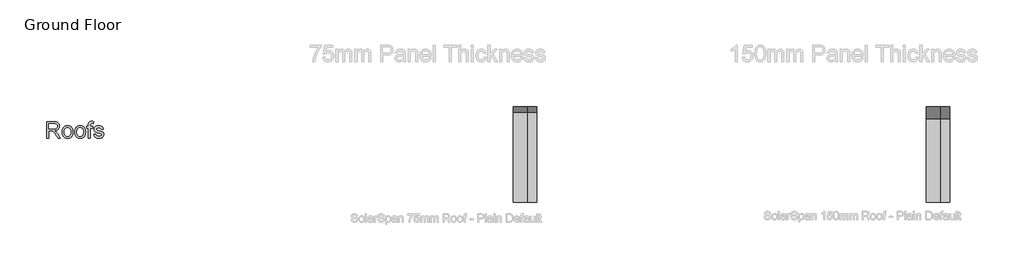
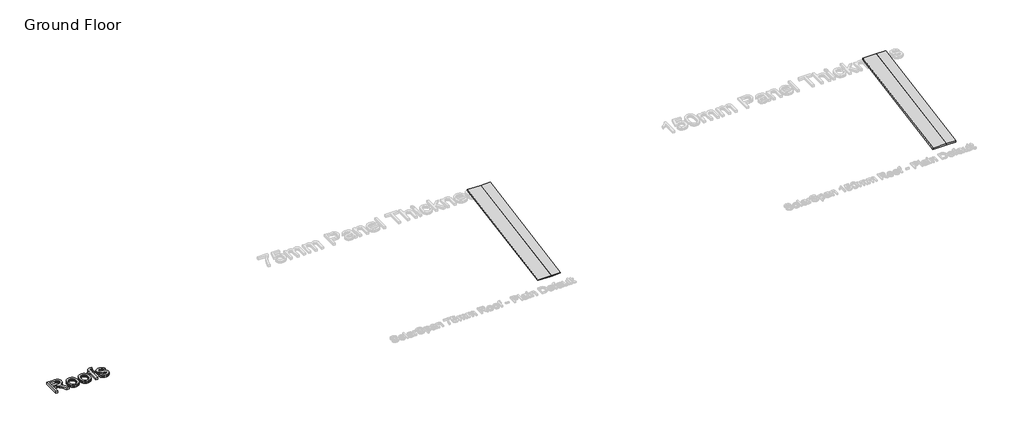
# One storey, part 1 of 5: 4 plates, 1 proxy.
"""IFC4 building model written with IfcOpenShell, lengths in millimetres."""

from ifc_helpers import new_model, si_unit, origin, origin_with_axes, place, context, project, spatial, polyline, outline, extrude, transform, mapped, element, save
from components import system_panel_1af4c5d8, system_panel_bee71b98, system_panel_8508c99d, system_panel_7cb49efc

model = new_model("IFC4")

# Units and contexts
model_context = context("Model", 3, world=origin())
ifc_project = project(units=[si_unit("LENGTHUNIT", "METRE", prefix="MILLI")], contexts=[model_context])

# Site, building, storey
site = spatial("IfcSite", under=ifc_project)
building = spatial("IfcBuilding", under=site)
storey = spatial("IfcBuildingStorey", under=building, Name="Ground Floor", Elevation=0.0)

# Proxy
placement = place(None, origin())
element("IfcBuildingElementProxy", 1, Name="1200mm Arial", ObjectType="1200mm Arial", at=placement, inside=storey, context=model_context, shape_type="SweptSolid", body=[
    extrude(outline(polyline([(-35549.8563824, -42961.8538143), (-35549.8563824, -41786.5810871), (-35043.4217233, -41786.5810871), (-34970.7293405, -41788.5627099), (-34907.308442, -41794.5075786), (-34853.159028, -41804.4156929), (-34808.2810983, -41818.287053), (-34770.0653667, -41837.1886865), (-34735.9025471, -41862.1876212), (-34705.7926395, -41893.283857), (-34679.7356437, -41930.4773939), (-34658.7089214, -41971.7686759), (-34643.6898341, -42015.1581467), (-34634.6783817, -42060.6458065), (-34631.6745642, -42108.2316553), (-34636.6510379, -42168.5949365), (-34651.5804591, -42224.0086439), (-34676.4628277, -42274.4727774), (-34711.2981437, -42319.9873371), (-34732.5602398, -42340.5253786), (-34756.5347382, -42359.0997305), (-34812.620942, -42390.3573655), (-34879.5567552, -42413.7602419), (-34957.3421778, -42429.3083598), (-34908.9224335, -42460.9425928), (-34873.8450187, -42492.146428), (-34813.6610699, -42563.5207178), (-34754.7683142, -42643.3594962), (-34558.7938824, -42961.8538143), (-34729.5183142, -42961.8538143), (-34882.4529733, -42718.2487007), (-34943.6411835, -42625.2827916), (-34992.9217233, -42556.9930189), (-35033.9888398, -42509.9720672), (-35070.5367801, -42480.8126212), (-35105.1479307, -42463.7043115), (-35140.4046778, -42452.8367689), (-35174.7647631, -42448.9631893), (-35225.6234278, -42447.6719962), (-35402.9472915, -42447.6719962), (-35402.9472915, -42961.8538143), (-35549.8563824, -42961.8538143)]), holes=[polyline([(-35402.9472915, -42300.7629053), (-35074.1234278, -42300.7629053), (-34979.6869932, -42295.5622661), (-34940.4042339, -42289.061467), (-34906.4117801, -42279.9603484), (-34876.947469, -42267.9988783), (-34851.2491381, -42252.9170246), (-34829.3167872, -42234.7147874), (-34811.1504165, -42213.3921666), (-34796.9024584, -42189.9982568), (-34786.7253454, -42165.5821524), (-34780.6190777, -42140.1438534), (-34778.5836551, -42113.6833598), (-34782.4662013, -42076.1132249), (-34794.1138398, -42042.0221382), (-34813.5265706, -42011.4100999), (-34840.7043937, -41984.2771098), (-34876.2749726, -41962.0578271), (-34920.8659704, -41946.1869109), (-34974.4773873, -41936.6643612), (-35037.1092233, -41933.490178), (-35402.9472915, -41933.490178), (-35402.9472915, -42300.7629053)])]), origin_with_axes(), (0.0, 0.0, 1.0), 150.0),
    extrude(outline(polyline([(-34429.6745642, -42530.3083598), (-34427.688458, -42472.4871151), (-34421.7301395, -42418.5304834), (-34411.7996086, -42368.4384646), (-34397.8968653, -42322.2110587), (-34380.0219097, -42279.8482657), (-34358.1747417, -42241.3500857), (-34332.3553614, -42206.7165185), (-34302.5637687, -42175.9475643), (-34275.2962794, -42153.5534326), (-34246.5761977, -42134.1451851), (-34216.4035237, -42117.7228218), (-34184.7782574, -42104.2863428), (-34151.7003987, -42093.8357479), (-34117.1699477, -42086.3710374), (-34043.7512687, -42080.3992689), (-34002.2559962, -42082.217251), (-33962.7019967, -42087.6711972), (-33925.0892703, -42096.7611075), (-33889.417817, -42109.486982), (-33855.6876368, -42125.8488206), (-33823.8987297, -42145.8466233), (-33794.0510956, -42169.4803902), (-33766.1447346, -42196.7501212), (-33740.892493, -42227.2254186), (-33719.0072169, -42260.4758847), (-33700.4889063, -42296.5015194), (-33685.3375614, -42335.3023229), (-33673.5531819, -42376.878295), (-33665.135768, -42421.2294358), (-33660.0853197, -42468.3557453), (-33658.4018369, -42518.2572234), (-33661.3787545, -42596.8944749), (-33670.3095074, -42666.6727064), (-33685.1940954, -42727.591918), (-33706.0325187, -42779.6521098), (-33732.5647453, -42824.6197057), (-33764.5307432, -42864.2611297), (-33801.9305123, -42898.5763818), (-33844.7640528, -42927.5654621), (-33891.3635734, -42950.6007071), (-33940.0612829, -42967.0544536), (-33990.8571814, -42976.9267014), (-34043.7512687, -42980.2174507), (-34085.9011045, -42978.4061936), (-34125.9841345, -42972.9724223), (-34164.0003588, -42963.9161368), (-34199.9497773, -42951.2373371), (-34233.83239, -42934.9360232), (-34265.648197, -42915.012195), (-34295.3971982, -42891.4658527), (-34323.0793937, -42864.2969962), (-34348.0626368, -42833.7208243), (-34369.7147808, -42799.9525359), (-34388.0358257, -42762.9921311), (-34403.0257716, -42722.8396098), (-34414.6846183, -42679.494972), (-34423.012366, -42632.9582178), (-34428.0090147, -42583.229347), (-34429.6745642, -42530.3083598)]), holes=[polyline([(-34282.7654733, -42530.021428), (-34278.5152957, -42601.2791517), (-34265.7647631, -42662.9784592), (-34244.5138753, -42715.1193506), (-34214.7626324, -42757.7018257), (-34178.5733568, -42790.7796844), (-34138.008371, -42814.4067263), (-34093.067675, -42828.5829514), (-34043.7512687, -42833.3083598), (-33994.6859278, -42828.5560516), (-33949.9245642, -42814.2991268), (-33909.4671778, -42790.5375857), (-33873.3137687, -42757.271428), (-33843.5625258, -42714.2675217), (-33822.3116381, -42661.2927348), (-33809.5611054, -42598.3470672), (-33805.3109278, -42525.4305189), (-33809.5880052, -42456.4323832), (-33822.4192375, -42396.3470672), (-33843.8046246, -42345.1745707), (-33873.7441665, -42302.9148939), (-33910.0320748, -42269.8370352), (-33950.4625614, -42246.2099933), (-33995.035626, -42232.0337682), (-34043.7512687, -42227.3083598), (-34093.067675, -42232.0158349), (-34138.008371, -42246.1382604), (-34178.5733568, -42269.6756361), (-34214.7626324, -42302.6279621), (-34244.5138753, -42345.0849045), (-34265.7647631, -42397.1361297), (-34278.5152957, -42458.7816375), (-34282.7654733, -42530.021428)])]), origin_with_axes(), (0.0, 0.0, 1.0), 150.0),
    extrude(outline(polyline([(-33529.8563824, -42530.3083598), (-33527.8702762, -42472.4871151), (-33521.9119577, -42418.5304834), (-33511.9814268, -42368.4384646), (-33498.0786835, -42322.2110587), (-33480.2037279, -42279.8482657), (-33458.3565599, -42241.3500857), (-33432.5371796, -42206.7165185), (-33402.7455869, -42175.9475643), (-33375.4780976, -42153.5534326), (-33346.7580159, -42134.1451851), (-33316.5853419, -42117.7228218), (-33284.9600756, -42104.2863428), (-33251.8822169, -42093.8357479), (-33217.3517659, -42086.3710374), (-33143.9330869, -42080.3992689), (-33102.4378144, -42082.217251), (-33062.8838149, -42087.6711972), (-33025.2710885, -42096.7611075), (-32989.5996352, -42109.486982), (-32955.869455, -42125.8488206), (-32924.0805479, -42145.8466233), (-32894.2329138, -42169.4803902), (-32866.3265528, -42196.7501212), (-32841.0743112, -42227.2254186), (-32819.1890351, -42260.4758847), (-32800.6707245, -42296.5015194), (-32785.5193795, -42335.3023229), (-32773.7350001, -42376.878295), (-32765.3175862, -42421.2294358), (-32760.2671379, -42468.3557453), (-32758.5836551, -42518.2572234), (-32761.5605727, -42596.8944749), (-32770.4913256, -42666.6727064), (-32785.3759136, -42727.591918), (-32806.2143369, -42779.6521098), (-32832.7465635, -42824.6197057), (-32864.7125614, -42864.2611297), (-32902.1123305, -42898.5763818), (-32944.945871, -42927.5654621), (-32991.5453916, -42950.6007071), (-33040.2431011, -42967.0544536), (-33091.0389996, -42976.9267014), (-33143.9330869, -42980.2174507), (-33186.0829227, -42978.4061936), (-33226.1659527, -42972.9724223), (-33264.1821769, -42963.9161368), (-33300.1315954, -42951.2373371), (-33334.0142082, -42934.9360232), (-33365.8300152, -42915.012195), (-33395.5790164, -42891.4658527), (-33423.2612119, -42864.2969962), (-33448.244455, -42833.7208243), (-33469.896599, -42799.9525359), (-33488.2176439, -42762.9921311), (-33503.2075898, -42722.8396098), (-33514.8664365, -42679.494972), (-33523.1941842, -42632.9582178), (-33528.1908328, -42583.229347), (-33529.8563824, -42530.3083598)]), holes=[polyline([(-33382.9472915, -42530.021428), (-33378.6971139, -42601.2791517), (-33365.9465812, -42662.9784592), (-33344.6956935, -42715.1193506), (-33314.9444506, -42757.7018257), (-33278.755175, -42790.7796844), (-33238.1901892, -42814.4067263), (-33193.2494932, -42828.5829514), (-33143.9330869, -42833.3083598), (-33094.867746, -42828.5560516), (-33050.1063824, -42814.2991268), (-33009.648996, -42790.5375857), (-32973.4955869, -42757.271428), (-32943.744344, -42714.2675217), (-32922.4934562, -42661.2927348), (-32909.7429236, -42598.3470672), (-32905.492746, -42525.4305189), (-32909.7698234, -42456.4323832), (-32922.6010557, -42396.3470672), (-32943.9864427, -42345.1745707), (-32973.9259846, -42302.9148939), (-33010.213893, -42269.8370352), (-33050.6443795, -42246.2099933), (-33095.2174442, -42232.0337682), (-33143.9330869, -42227.3083598), (-33193.2494932, -42232.0158349), (-33238.1901892, -42246.1382604), (-33278.755175, -42269.6756361), (-33314.9444506, -42302.6279621), (-33344.6956935, -42345.0849045), (-33365.9465812, -42397.1361297), (-33378.6971139, -42458.7816375), (-33382.9472915, -42530.021428)])]), origin_with_axes(), (0.0, 0.0, 1.0), 150.0),
    extrude(outline(polyline([(-32556.5836551, -42961.8538143), (-32556.5836551, -42245.6719962), (-32685.1291096, -42245.6719962), (-32685.1291096, -42098.7629053), (-32556.5836551, -42098.7629053), (-32556.5836551, -42011.8225643), (-32552.7100756, -41939.8744109), (-32541.0893369, -41889.302678), (-32528.320871, -41863.604347), (-32511.5353596, -41840.4525359), (-32490.7328028, -41819.8472447), (-32465.9132006, -41801.7884734), (-32436.5385557, -41787.101151), (-32402.070871, -41776.6102064), (-32362.5101466, -41770.3156396), (-32317.8563824, -41768.2174507), (-32254.0857858, -41772.2344962), (-32183.8592233, -41784.2856325), (-32205.3791096, -41922.0129053), (-32248.9210131, -41916.8481325), (-32290.023996, -41915.1265416), (-32320.3401359, -41916.6508669), (-32345.8681011, -41921.2238428), (-32366.6078916, -41928.8454692), (-32382.5595074, -41939.5157462), (-32394.4223447, -41954.3465345), (-32402.8958, -41974.449695), (-32407.9798731, -41999.8252277), (-32409.6745642, -42030.4731325), (-32409.6745642, -42098.7629053), (-32244.4018369, -42098.7629053), (-32244.4018369, -42245.6719962), (-32409.6745642, -42245.6719962), (-32409.6745642, -42961.8538143), (-32556.5836551, -42961.8538143)])), origin_with_axes(), (0.0, 0.0, 1.0), 150.0),
    extrude(outline(polyline([(-32170.9472915, -42704.7629053), (-32024.0382006, -42686.3992689), (-32015.1612474, -42719.8985587), (-32000.8684562, -42749.2373371), (-31981.159827, -42774.4156041), (-31956.0353596, -42795.4333598), (-31925.4233213, -42812.0036723), (-31889.251979, -42823.8396098), (-31847.5213327, -42830.9411723), (-31800.2313824, -42833.3083598), (-31752.9952318, -42831.1384379), (-31712.2867801, -42824.6286723), (-31678.1060273, -42813.7790629), (-31650.4529733, -42798.5896098), (-31629.1124193, -42780.4770388), (-31613.8691665, -42760.8580757), (-31604.7232148, -42739.7327206), (-31601.6745642, -42717.1009734), (-31604.741148, -42697.2668115), (-31613.9408994, -42679.6563712), (-31629.2738185, -42664.2696524), (-31650.7399051, -42651.1066553), (-31705.7590812, -42632.4560871), (-31801.9529733, -42609.2146098), (-31936.0218653, -42570.4429479), (-32023.1774051, -42537.3381893), (-32053.0990138, -42520.740977), (-32079.1649761, -42501.2206467), (-32101.3752922, -42478.7771986), (-32119.7299619, -42453.4106325), (-32134.1034527, -42425.8831112), (-32144.3702318, -42396.9567973), (-32150.5302993, -42366.6316908), (-32152.5836551, -42334.9077916), (-32150.9337971, -42305.9007781), (-32145.9842233, -42277.9876922), (-32137.7349335, -42251.1685338), (-32126.1859278, -42225.443303), (-32111.7855372, -42201.3320636), (-32094.9820926, -42179.3548797), (-32075.775594, -42159.5117511), (-32054.1660415, -42141.802678), (-32013.6010557, -42118.1666695), (-31960.7697346, -42098.3325075), (-31899.6891239, -42084.8825786), (-31834.3762687, -42080.3992689), (-31785.0060628, -42082.2015594), (-31738.7562403, -42087.6084308), (-31695.6268014, -42096.6198832), (-31655.617746, -42109.2359166), (-31619.6795358, -42124.9275004), (-31588.7626324, -42143.1656041), (-31562.8670358, -42163.9502277), (-31541.992746, -42187.2813712), (-31525.0637687, -42213.9749969), (-31511.0041096, -42244.8470672), (-31499.8137687, -42279.8975821), (-31491.492746, -42319.1265416), (-31638.4018369, -42337.490178), (-31645.4047666, -42312.9485409), (-31656.9448057, -42291.2582888), (-31673.0219541, -42272.4194216), (-31693.6362119, -42256.4319393), (-31718.8772453, -42243.6903733), (-31748.8347204, -42234.5892547), (-31783.5086373, -42229.1285835), (-31822.898996, -42227.3083598), (-31868.5928881, -42229.0478839), (-31907.2569506, -42234.2664564), (-31938.8911835, -42242.9640771), (-31963.4955869, -42255.1407462), (-31981.9488895, -42269.630803), (-31995.1298199, -42285.2685871), (-32003.0383781, -42302.0540984), (-32005.6745642, -42319.9873371), (-32001.298854, -42342.5832178), (-31988.1717233, -42362.740178), (-31965.7193085, -42380.7451496), (-31933.367746, -42395.1634734), (-31806.8308142, -42426.4390416), (-31677.0300329, -42464.8161723), (-31591.2015528, -42495.5896098), (-31561.001979, -42510.5997305), (-31534.2455869, -42528.6585018), (-31510.9323767, -42549.7659237), (-31491.0623483, -42573.9219962), (-31475.1824655, -42601.1625857), (-31463.839692, -42631.5235587), (-31457.034028, -42665.0049152), (-31454.7654733, -42701.6066553), (-31457.4285592, -42738.3697945), (-31465.417817, -42774.0569393), (-31478.7332467, -42808.6680899), (-31497.3748483, -42842.2032462), (-31521.0377567, -42873.3263818), (-31549.4171068, -42900.7014706), (-31582.5128987, -42924.3285125), (-31620.3251324, -42944.2075075), (-31661.8226466, -42959.9618577), (-31705.9742801, -42971.2149649), (-31752.7800329, -42977.9668293), (-31802.2399051, -42980.2174507), (-31881.3075542, -42975.877607), (-31950.3684562, -42962.8580757), (-32009.4226111, -42941.158857), (-32058.4700187, -42910.7799507), (-32098.5328739, -42871.8648229), (-32130.633371, -42824.5569393), (-32154.7715102, -42768.8563001), (-32170.9472915, -42704.7629053)])), origin_with_axes(), (0.0, 0.0, 1.0), 150.0),
])

# Plates
system_panel_shape = system_panel_1af4c5d8(model_context)
element("IfcPlate", 2, ObjectType="System Panel : SolarSpan 75mm Roof - Plain Surfmist", at=placement, inside=storey, context=model_context, shape_type="MappedRepresentation", body=[
    mapped(system_panel_shape, transform((-1677.3595261, -47532.4948525, 0.0), x_axis=(1.0, 0.0, 0.0), y_axis=(0.0, 0.17364817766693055, -0.9848077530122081), z_axis=(0.0, 0.9848077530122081, 0.17364817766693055))),
])
system_panel_2_shape = system_panel_bee71b98(model_context)
element("IfcPlate", 3, ObjectType="System Panel : SolarSpan 75mm Roof - Plain Surfmist", at=placement, inside=storey, context=model_context, shape_type="MappedRepresentation", body=[
    mapped(system_panel_2_shape, transform((-827.3595261, -47532.4948525, 0.0), x_axis=(1.0, 0.0, 0.0), y_axis=(0.0, 0.17364817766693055, -0.9848077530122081), z_axis=(0.0, 0.9848077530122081, 0.17364817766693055))),
])
system_panel_3_shape = system_panel_8508c99d(model_context)
element("IfcPlate", 4, ObjectType="System Panel : SolarSpan 150mm Roof - Plain Surfmist", at=placement, inside=storey, context=model_context, shape_type="MappedRepresentation", body=[
    mapped(system_panel_3_shape, transform((27871.7838579, -47515.1300347, 0.0), x_axis=(1.0, 0.0, 0.0), y_axis=(0.0, 0.17364817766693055, -0.9848077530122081), z_axis=(0.0, 0.9848077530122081, 0.17364817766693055))),
])
system_panel_4_shape = system_panel_7cb49efc(model_context)
element("IfcPlate", 5, ObjectType="System Panel : SolarSpan 150mm Roof - Plain Surfmist", at=placement, inside=storey, context=model_context, shape_type="MappedRepresentation", body=[
    mapped(system_panel_4_shape, transform((28721.7838579, -47515.1300347, 0.0), x_axis=(1.0, 0.0, 0.0), y_axis=(0.0, 0.17364817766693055, -0.9848077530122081), z_axis=(0.0, 0.9848077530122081, 0.17364817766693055))),
])

save(model, "model.ifc")
